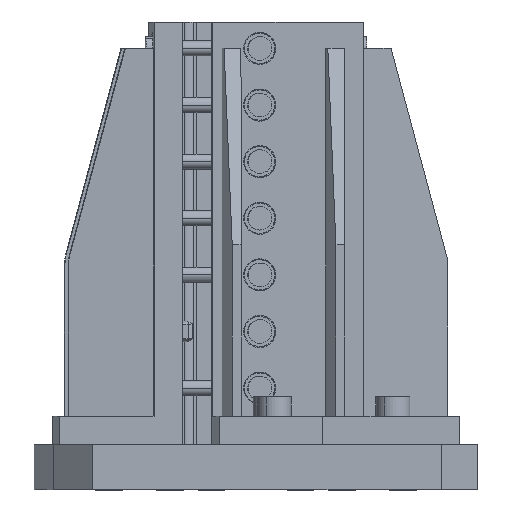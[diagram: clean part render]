
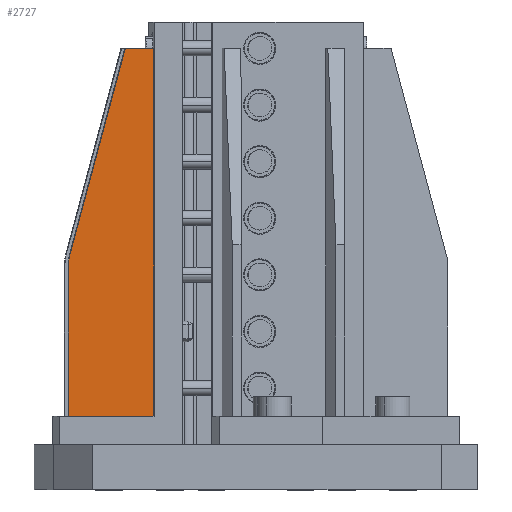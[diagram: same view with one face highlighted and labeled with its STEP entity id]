
A CAD part, front view. The second image highlights one B-rep face of the part: STEP entity #2727.
In plain terms, the highlighted planar face has unit normal (0.002, -1, 0).
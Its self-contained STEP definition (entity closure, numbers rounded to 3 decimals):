
#2727=ADVANCED_FACE('Draft.2',(#6471),#6472,.F.);
#6471=FACE_OUTER_BOUND('',#11766,.T.);
#6472=PLANE('',#11767);
#11766=EDGE_LOOP('',(#18379,#18380,#18381,#18382,#18383,#18384));
#11767=AXIS2_PLACEMENT_3D('',#18385,#18386,#18387);
#18379=ORIENTED_EDGE('',*,*,#30142,.F.);
#18380=ORIENTED_EDGE('',*,*,#30143,.F.);
#18381=ORIENTED_EDGE('',*,*,#30144,.F.);
#18382=ORIENTED_EDGE('',*,*,#30085,.F.);
#18383=ORIENTED_EDGE('',*,*,#30061,.F.);
#18384=ORIENTED_EDGE('',*,*,#30145,.F.);
#18385=CARTESIAN_POINT('',(-68.089,-0.13,39.));
#18386=DIRECTION('',(-0.002,1.,0.));
#18387=DIRECTION('',(0.,0.,1.0));
#30061=EDGE_CURVE('',#35782,#35784,#35785,.F.);
#30085=EDGE_CURVE('',#35784,#35816,#35817,.T.);
#30142=EDGE_CURVE('',#35901,#35902,#35903,.T.);
#30143=EDGE_CURVE('',#35904,#35901,#35905,.T.);
#30144=EDGE_CURVE('',#35816,#35904,#35906,.F.);
#30145=EDGE_CURVE('',#35902,#35782,#35907,.F.);
#35782=VERTEX_POINT('',#43571);
#35784=VERTEX_POINT('',#43574);
#35785=LINE('',#43575,#43576);
#35816=VERTEX_POINT('',#43611);
#35817=LINE('',#43612,#43613);
#35901=VERTEX_POINT('',#43743);
#35902=VERTEX_POINT('',#43744);
#35903=LINE('',#43745,#43746);
#35904=VERTEX_POINT('',#43747);
#35905=B_SPLINE_CURVE_WITH_KNOTS('',4,(#43748,#43749,#43750,#43751,#43752),.UNSPECIFIED.,.F.,.F.,(5,5),(0.0,7.405),.UNSPECIFIED.);
#35906=LINE('',#43753,#43754);
#35907=LINE('',#43755,#43756);
#43571=CARTESIAN_POINT('',(-68.089,-0.13,234.));
#43574=CARTESIAN_POINT('',(-68.089,-0.13,39.));
#43575=CARTESIAN_POINT('',(-68.089,-0.13,136.5));
#43576=VECTOR('',#52290,1.0);
#43611=CARTESIAN_POINT('',(-113.116,-0.202,39.));
#43612=CARTESIAN_POINT('',(-90.602,-0.166,39.));
#43613=VECTOR('',#52337,1.0);
#43743=CARTESIAN_POINT('',(-112.434,-0.201,124.582));
#43744=CARTESIAN_POINT('',(-83.098,-0.154,234.));
#43745=CARTESIAN_POINT('',(-97.766,-0.177,179.291));
#43746=VECTOR('',#52404,1.0);
#43747=CARTESIAN_POINT('',(-113.116,-0.202,119.405));
#43748=CARTESIAN_POINT('',(-113.116,-0.202,119.405));
#43749=CARTESIAN_POINT('',(-113.116,-0.202,120.714));
#43750=CARTESIAN_POINT('',(-113.002,-0.202,122.023));
#43751=CARTESIAN_POINT('',(-112.773,-0.201,123.317));
#43752=CARTESIAN_POINT('',(-112.434,-0.201,124.582));
#43753=CARTESIAN_POINT('',(-113.116,-0.202,79.203));
#43754=VECTOR('',#52405,1.0);
#43755=CARTESIAN_POINT('',(-75.593,-0.142,234.));
#43756=VECTOR('',#52406,1.0);
#52290=DIRECTION('',(0.0,0.0,1.0));
#52337=DIRECTION('',(-1.,-0.002,0.0));
#52404=DIRECTION('',(0.259,0.,0.966));
#52405=DIRECTION('',(0.0,0.0,-1.0));
#52406=DIRECTION('',(-1.,-0.002,0.0));
